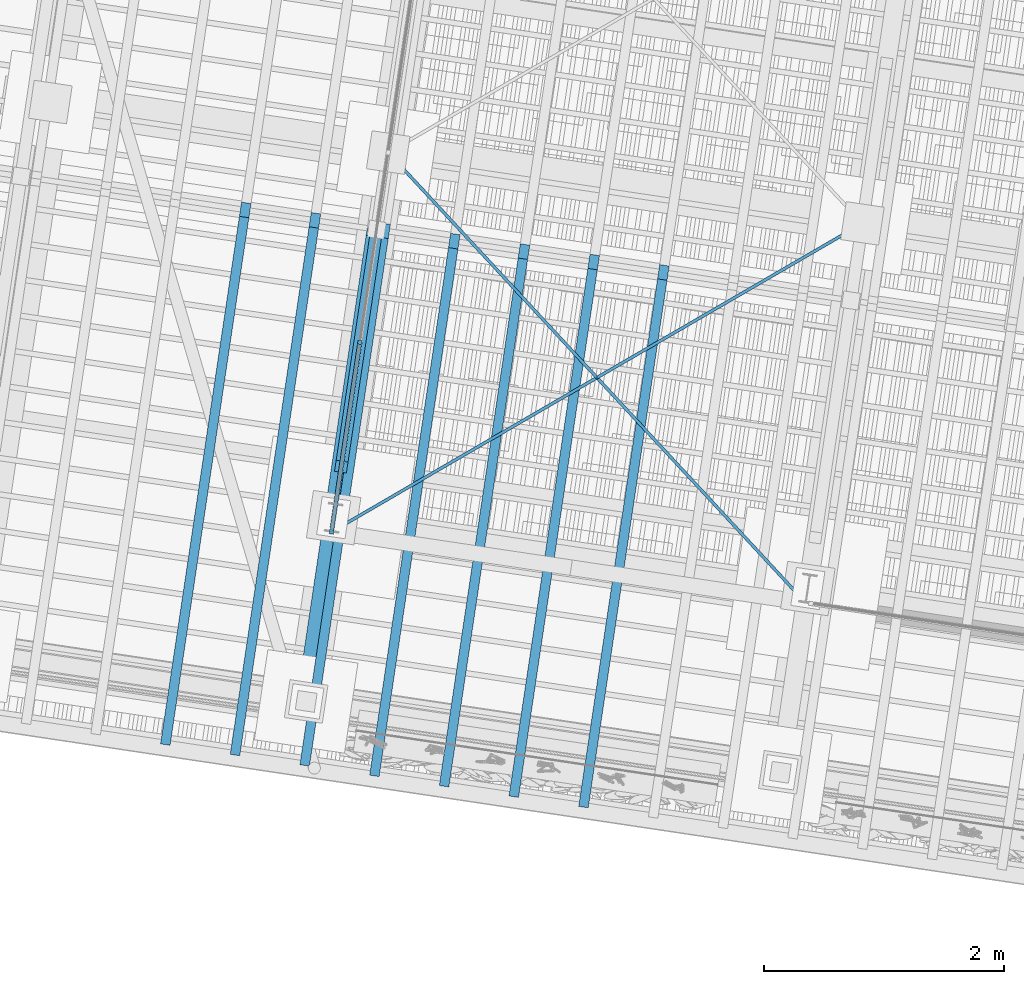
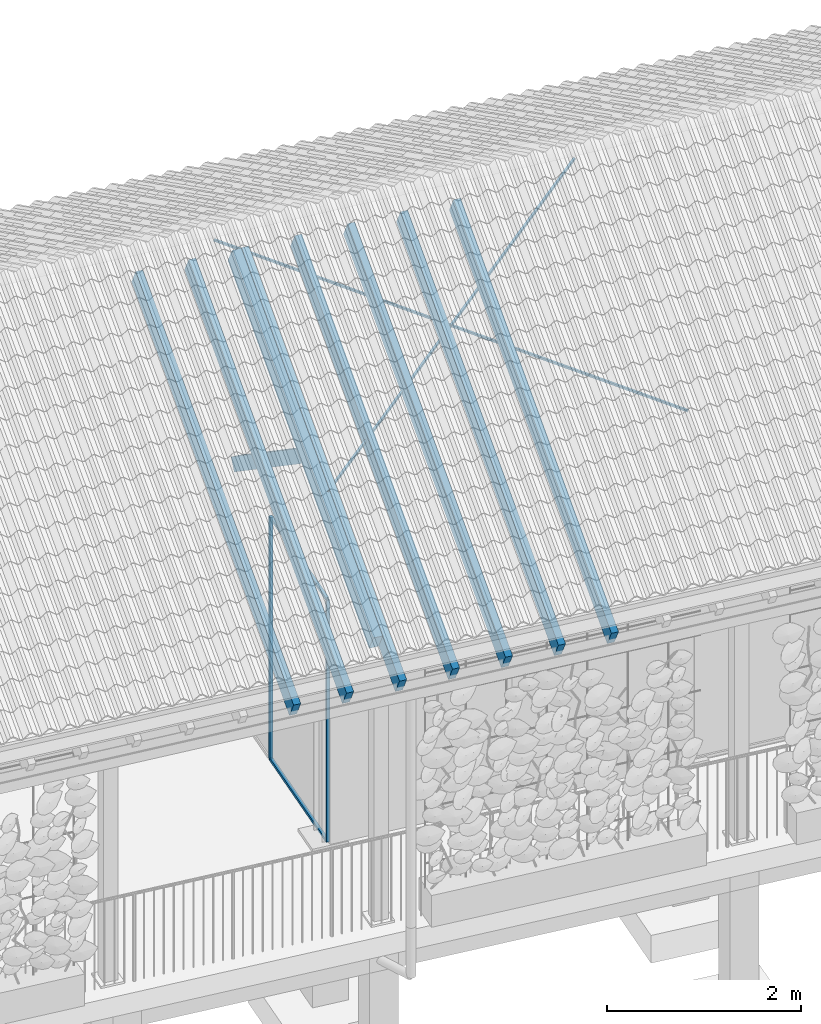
# One storey, part 22 of 131: 16 members, 1 element without a shape of its own.
"""IFC4 building model written with IfcOpenShell, lengths in metres."""

import ifcopenshell
import ifcopenshell.guid

model = None  # the IFC model being written
_history = None  # IfcOwnerHistory: only IFC2X3 demands one
_inside = {}  # id of a spatial element -> (the spatial element, [elements in it])
_under = {}  # id of a project, library or spatial element -> (it, [spatial elements below it])
_declared = {}  # id of a project -> (the project, [libraries it declares])
_typed = {}  # id of a type object -> (the type object, [elements of that type])
_made_of = {}  # id of a material, layer set ... -> (it, [elements and type objects made of it])


def new_model(schema):
    """Start an empty IFC model of exactly this schema.

    Asked for "IFC4X3", IfcOpenShell would pick the latest addendum, in which some entities
    have other attributes; the version numbers below select the first issue.
    IFC2X3 requires an IfcOwnerHistory on every rooted entity: one is made here for all.
    """
    global model, _history
    if schema == "IFC4X3":
        model = ifcopenshell.file(schema_version=(4, 3, 0, 0))
    else:
        model = ifcopenshell.file(schema=schema)
    _inside.clear()
    _under.clear()
    _declared.clear()
    _typed.clear()
    _made_of.clear()
    _history = None
    if model.schema == "IFC2X3":
        org = make("IfcOrganization", Name="unknown")
        user = make(
            "IfcPersonAndOrganization",
            ThePerson=make("IfcPerson", FamilyName="unknown"),
            TheOrganization=org,
        )
        app = make(
            "IfcApplication",
            ApplicationDeveloper=org,
            Version="unknown",
            ApplicationFullName="unknown",
            ApplicationIdentifier="unknown",
        )
        _history = make(
            "IfcOwnerHistory",
            OwningUser=user,
            OwningApplication=app,
            ChangeAction="ADDED",
            CreationDate=0,
        )
    return model


def make(cls, **values):
    """One entity of the class cls with the attributes given. An attribute that is None is left unset."""
    return model.create_entity(
        cls, **{name: value for name, value in values.items() if value is not None}
    )


def rooted(cls, **values):
    """An entity with a GlobalId (a new one), such as an element, a storey or a relation."""
    return make(cls, GlobalId=ifcopenshell.guid.new(), OwnerHistory=_history, **values)


def si_unit(unit_type, name, prefix=None):
    """IfcSIUnit, for example si_unit("LENGTHUNIT", "METRE", prefix="MILLI")."""
    return make("IfcSIUnit", UnitType=unit_type, Prefix=prefix, Name=name)


def assignment(units):
    """IfcUnitAssignment: the units of a project."""
    return None if units is None else make("IfcUnitAssignment", Units=units)


def point(xyz):
    """IfcCartesianPoint."""
    return None if xyz is None else make("IfcCartesianPoint", Coordinates=xyz)


def direction(xyz):
    """IfcDirection."""
    return None if xyz is None else make("IfcDirection", DirectionRatios=xyz)


def frame(location, z_axis=None, x_axis=None):
    """IfcAxis2Placement3D, a coordinate frame: its origin and axes. An axis left out is left unset."""
    return make(
        "IfcAxis2Placement3D",
        Location=point(location),
        Axis=direction(z_axis),
        RefDirection=direction(x_axis),
    )


def origin_with_axes():
    """The frame at (0, 0, 0) with the z axis (0, 0, 1) and the x axis (1, 0, 0) written out."""
    return frame((0.0, 0.0, 0.0), z_axis=(0.0, 0.0, 1.0), x_axis=(1.0, 0.0, 0.0))


def place(relative_to, where):
    """IfcLocalPlacement: puts the frame where relative to a parent placement (None: the world)."""
    return make(
        "IfcLocalPlacement", PlacementRelTo=relative_to, RelativePlacement=where
    )


def context(
    kind, dimensions, precision=None, world=None, true_north=None, identifier=None
):
    """IfcGeometricRepresentationContext, for example the 3D "Model" context."""
    return make(
        "IfcGeometricRepresentationContext",
        ContextIdentifier=identifier,
        ContextType=kind,
        CoordinateSpaceDimension=dimensions,
        Precision=precision,
        WorldCoordinateSystem=world,
        TrueNorth=true_north,
    )


def subcontext(parent, identifier, kind, view, scale=None):
    """IfcGeometricRepresentationSubContext, for example "Body" below "Model"."""
    return make(
        "IfcGeometricRepresentationSubContext",
        ContextIdentifier=identifier,
        ContextType=kind,
        ParentContext=parent,
        TargetScale=scale,
        TargetView=view,
    )


def project(units=None, contexts=None):
    """IfcProject with its units and contexts."""
    return rooted(
        "IfcProject",
        Name="project",
        RepresentationContexts=contexts,
        UnitsInContext=assignment(units),
    )


def spatial(cls, under=None, at=None, **own):
    """A site, building, storey or space (cls), placed at a placement, below another one or the project."""
    s = rooted(cls, ObjectPlacement=at, **own)
    if under is not None:
        _under.setdefault(under.id(), (under, []))[1].append(s)
    return s


def profile(cls, at=None, kind="AREA", **sizes):
    """A parametric profile (cls). Its sizes go by their IFC names, for example OverallWidth=200.0."""
    return make(cls, ProfileType=kind, Position=at, **sizes)


def rectangle(**sizes):
    """IfcRectangleProfileDef."""
    return profile("IfcRectangleProfileDef", **sizes)


def extrude(swept, where, along, depth):
    """IfcExtrudedAreaSolid: the profile swept, set in the frame where, extruded along a direction by depth."""
    return make(
        "IfcExtrudedAreaSolid",
        SweptArea=swept,
        Position=where,
        ExtrudedDirection=direction(along),
        Depth=depth,
    )


def shape(context_of_items, identifier, shape_type, items):
    """IfcShapeRepresentation: the items that make up one representation, for example the "Body"."""
    return make(
        "IfcShapeRepresentation",
        ContextOfItems=context_of_items,
        RepresentationIdentifier=identifier,
        RepresentationType=shape_type,
        Items=items,
    )


def material(Name=None, Category=None):
    """IfcMaterial."""
    return make("IfcMaterial", Name=Name, Category=Category)


def material_profile(
    of_material, cross_section, Name=None, Category=None, Priority=None
):
    """IfcMaterialProfile: a cross section and its material."""
    return make(
        "IfcMaterialProfile",
        Name=Name,
        Material=of_material,
        Profile=cross_section,
        Priority=Priority,
        Category=Category,
    )


def profile_set(profiles, Name=None, composite=None):
    """IfcMaterialProfileSet."""
    return make(
        "IfcMaterialProfileSet",
        Name=Name,
        MaterialProfiles=profiles,
        CompositeProfile=composite,
    )


def profile_usage(for_profile_set, cardinal=None, extent=None):
    """IfcMaterialProfileSetUsage: how a profile set lies along its element."""
    return make(
        "IfcMaterialProfileSetUsage",
        ForProfileSet=for_profile_set,
        CardinalPoint=cardinal,
        ReferenceExtent=extent,
    )


def made_of(thing, what):
    """Note that an element or type object is made of a material, layer set ...; save() writes the relation."""
    if what is not None:
        _made_of.setdefault(what.id(), (what, []))[1].append(thing)
    return thing


def type_object(cls, material=None, **own):
    """A type object (cls), such as IfcWallType, which elements share."""
    return made_of(rooted(cls, **own), material)


def element(
    cls,
    number,
    at=None,
    inside=None,
    cuts=None,
    type_object=None,
    material=None,
    context=None,
    identifier="Body",
    shape_type=None,
    held_by="IfcProductDefinitionShape",
    body=None,
    shapes=None,
    **own,
):
    """One element of the class cls, such as IfcWall. Its Tag is "e" and its number.

    at: its placement. inside: the storey or other place that contains it. cuts: it is an
    opening in that element (IfcRelVoidsElement). A single representation is given by context,
    identifier, shape_type and body (its items); several are given by shapes. held_by: the class
    of the entity that holds the representations. save() writes the other relations.
    """
    e = rooted(cls, Tag="e%d" % number, ObjectPlacement=at, **own)
    if body is not None:
        shapes = [shape(context, identifier, shape_type, body)]
    if shapes is not None:
        e.Representation = make(held_by, Representations=shapes)
    if inside is not None:
        _inside.setdefault(inside.id(), (inside, []))[1].append(e)
    if cuts is not None:
        rooted(
            "IfcRelVoidsElement", RelatingBuildingElement=cuts, RelatedOpeningElement=e
        )
    if type_object is not None:
        _typed.setdefault(type_object.id(), (type_object, []))[1].append(e)
    return made_of(e, material)


def aggregate(whole, parts):
    """IfcRelAggregates: a whole, such as a stair, and the parts it consists of."""
    return rooted("IfcRelAggregates", RelatingObject=whole, RelatedObjects=parts)


def save(model, path):
    """Write the relations noted so far, then the file.

    IfcRelAggregates (storeys below a building ...), IfcRelContainedInSpatialStructure (elements
    in a storey), IfcRelDefinesByType, IfcRelAssociatesMaterial and IfcRelDeclares: one each for
    every whole, place, type object, material and project.
    """
    for whole, parts in _under.values():
        aggregate(whole, parts)
    for where, things in _inside.values():
        rooted(
            "IfcRelContainedInSpatialStructure",
            RelatedElements=things,
            RelatingStructure=where,
        )
    for kind, things in _typed.values():
        rooted("IfcRelDefinesByType", RelatedObjects=things, RelatingType=kind)
    for what, things in _made_of.values():
        rooted("IfcRelAssociatesMaterial", RelatedObjects=things, RelatingMaterial=what)
    for by, libraries in _declared.values():
        rooted("IfcRelDeclares", RelatingContext=by, RelatedDefinitions=libraries)
    model.write(path)


model = new_model("IFC4")

# Units and contexts
model_context = context("Model", 3, precision=1e-05, world=origin_with_axes(), true_north=direction((0.0, 1.0)))
body_context = subcontext(model_context, "Body", "Model", "MODEL_VIEW")
ifc_project = project(units=[si_unit("AREAUNIT", "SQUARE_METRE"), si_unit("VOLUMEUNIT", "CUBIC_METRE"), si_unit("LENGTHUNIT", "METRE")], contexts=[model_context])

# Site, building, storey
site_placement = place(None, origin_with_axes())
site = spatial("IfcSite", under=ifc_project, at=site_placement, Name="Lares · Rua das Mercês · artigo 4771")
building_placement = place(site_placement, frame((15.0, 9.7, 14.65), z_axis=(0.0, 0.0, 1.0), x_axis=(0.989015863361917, -0.147809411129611, 0.0)))
building = spatial("IfcBuilding", under=site, at=building_placement, Name="Casa Sobreposta")
storey_placement = place(building_placement, origin_with_axes())
storey = spatial("IfcBuildingStorey", under=building, at=storey_placement, Name="00 · Habitação e estacionamento", Elevation=14.65)

# Members
ifc_material_1 = material(Name="Aço pintado / Stahl lackiert", Category="steel")
ifc_material_profile_1 = material_profile(ifc_material_1, rectangle(XDim=0.035, YDim=0.035))
ifc_profile_set_1 = profile_set([ifc_material_profile_1], Name="R0.035")
ifc_profile_usage_1 = profile_usage(ifc_profile_set_1)
member_type_1 = type_object("IfcMemberType", Name="R0.035 / steel", PredefinedType="NOTDEFINED", material=ifc_profile_set_1)
member_1_placement = place(storey_placement, origin_with_axes())
element("IfcMember", 1, at=member_1_placement, inside=storey, type_object=member_type_1, material=ifc_profile_usage_1, Name="Fachada poente integralmente envidraçada · módulo 1 · montante", context=body_context, shape_type="SweptSolid", body=[
    extrude(rectangle(XDim=0.035, YDim=0.035), origin_with_axes(), (0.0, 0.0, 1.0), 3.05),
])
ifc_profile_usage_2 = profile_usage(ifc_profile_set_1)
member_2_placement = place(storey_placement, frame((0.0, 1.6, 0.0), z_axis=(0.0, 0.0, 1.0), x_axis=(1.0, 0.0, 0.0)))
element("IfcMember", 2, at=member_2_placement, inside=storey, type_object=member_type_1, material=ifc_profile_usage_2, context=body_context, shape_type="SweptSolid", body=[
    extrude(rectangle(XDim=0.035, YDim=0.035), origin_with_axes(), (0.0, 0.0, 1.0), 3.05),
])
ifc_profile_usage_3 = profile_usage(ifc_profile_set_1)
member_3_placement = place(storey_placement, frame((0.0, 0.0, 0.0), z_axis=(0.0, 1.0, 0.0), x_axis=(1.0, 0.0, 0.0)))
element("IfcMember", 3, at=member_3_placement, inside=storey, type_object=member_type_1, material=ifc_profile_usage_3, Name="Fachada poente integralmente envidraçada · módulo 1 · travessa", context=body_context, shape_type="SweptSolid", body=[
    extrude(rectangle(XDim=0.035, YDim=0.035), origin_with_axes(), (0.0, 0.0, 1.0), 1.6),
])
ifc_profile_usage_4 = profile_usage(ifc_profile_set_1)
member_4_placement = place(storey_placement, frame((0.0, 0.0, 3.05), z_axis=(0.0, 1.0, 0.0), x_axis=(1.0, 0.0, 0.0)))
element("IfcMember", 4, at=member_4_placement, inside=storey, type_object=member_type_1, material=ifc_profile_usage_4, Name="Fachada poente integralmente envidraçada · módulo 1 · travessa", context=body_context, shape_type="SweptSolid", body=[
    extrude(rectangle(XDim=0.035, YDim=0.035), origin_with_axes(), (0.0, 0.0, 1.0), 1.6),
])
ifc_profile_usage_5 = profile_usage(ifc_profile_set_1)
member_5_placement = place(storey_placement, frame((0.0, 1.6, 0.0), z_axis=(0.0, 0.0, 1.0), x_axis=(1.0, 0.0, 0.0)))
element("IfcMember", 5, at=member_5_placement, inside=storey, type_object=member_type_1, material=ifc_profile_usage_5, context=body_context, shape_type="SweptSolid", body=[
    extrude(rectangle(XDim=0.035, YDim=0.035), origin_with_axes(), (0.0, 0.0, 1.0), 3.05),
])

# Roof, members
ifc_material_2 = material(Name="Madeira / Bauholz", Category="wood")
roof_placement = place(storey_placement, origin_with_axes())
roof = element("IfcRoof", 6, at=roof_placement, inside=storey, material=ifc_material_2, Name="Cobertura de telha · duas águas 30 graus", PredefinedType="GABLE_ROOF")
ifc_material_profile_2 = material_profile(ifc_material_2, rectangle(XDim=0.16, YDim=0.24))
ifc_profile_set_2 = profile_set([ifc_material_profile_2], Name="TIMBER0.160x0.240")
ifc_profile_usage_6 = profile_usage(ifc_profile_set_2)
member_type_2 = type_object("IfcMemberType", Name="TIMBER0.160x0.240 / timber", PredefinedType="NOTDEFINED", material=ifc_profile_set_2)
member_6_placement = place(roof_placement, frame((0.0, -1.43, 3.44635462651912), z_axis=(0.0, 0.866025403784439, 0.5), x_axis=(1.0, 0.0, 0.0)))
member_6 = element("IfcMember", 7, at=member_6_placement, type_object=member_type_2, material=ifc_profile_usage_6, Name="Tesoura · perna", context=body_context, shape_type="SweptSolid", body=[
    extrude(rectangle(XDim=0.16, YDim=0.24), origin_with_axes(), (0.0, 0.0, 1.0), 4.59570814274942),
])
ifc_material_profile_3 = material_profile(ifc_material_2, rectangle(XDim=0.1, YDim=0.16))
ifc_profile_set_3 = profile_set([ifc_material_profile_3], Name="TIMBER0.100x0.160")
ifc_profile_usage_7 = profile_usage(ifc_profile_set_3)
member_type_3 = type_object("IfcMemberType", Name="TIMBER0.100x0.160 / timber", PredefinedType="NOTDEFINED", material=ifc_profile_set_3)
member_7_placement = place(roof_placement, frame((0.0, 2.55, 3.1), z_axis=(0.0, -0.816439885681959, 0.577430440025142), x_axis=(-1.0, 0.0, 0.0)))
member_7 = element("IfcMember", 8, at=member_7_placement, type_object=member_type_3, material=ifc_profile_usage_7, Name="Tesoura · escora", context=body_context, shape_type="SweptSolid", body=[
    extrude(rectangle(XDim=0.1, YDim=0.16), origin_with_axes(), (0.0, 0.0, 1.0), 2.44965984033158),
])
ifc_material_profile_4 = material_profile(ifc_material_2, rectangle(XDim=0.08, YDim=0.24))
ifc_profile_set_4 = profile_set([ifc_material_profile_4], Name="TIMBER0.080x0.240")
ifc_profile_usage_8 = profile_usage(ifc_profile_set_4)
member_type_4 = type_object("IfcMemberType", Name="TIMBER0.080x0.240 / timber", PredefinedType="NOTDEFINED", material=ifc_profile_set_4)
member_8_placement = place(roof_placement, frame((-1.10909090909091, -1.9, 3.181), z_axis=(0.0, 0.866025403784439, 0.5), x_axis=(1.0, 0.0, 0.0)))
member_8 = element("IfcMember", 9, at=member_8_placement, type_object=member_type_4, material=ifc_profile_usage_8, Name="Cobertura · caibro", context=body_context, shape_type="SweptSolid", body=[
    extrude(rectangle(XDim=0.08, YDim=0.24), origin_with_axes(), (0.0, 0.0, 1.0), 5.13841739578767),
])
ifc_profile_usage_9 = profile_usage(ifc_profile_set_4)
member_9_placement = place(roof_placement, frame((-0.521212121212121, -1.9, 3.181), z_axis=(0.0, 0.866025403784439, 0.5), x_axis=(1.0, 0.0, 0.0)))
member_9 = element("IfcMember", 10, at=member_9_placement, type_object=member_type_4, material=ifc_profile_usage_9, Name="Cobertura · caibro", context=body_context, shape_type="SweptSolid", body=[
    extrude(rectangle(XDim=0.08, YDim=0.24), origin_with_axes(), (0.0, 0.0, 1.0), 5.13841739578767),
])
ifc_profile_usage_10 = profile_usage(ifc_profile_set_4)
member_10_placement = place(roof_placement, frame((0.0666666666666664, -1.9, 3.181), z_axis=(0.0, 0.866025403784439, 0.5), x_axis=(1.0, 0.0, 0.0)))
member_10 = element("IfcMember", 11, at=member_10_placement, type_object=member_type_4, material=ifc_profile_usage_10, Name="Cobertura · caibro", context=body_context, shape_type="SweptSolid", body=[
    extrude(rectangle(XDim=0.08, YDim=0.24), origin_with_axes(), (0.0, 0.0, 1.0), 5.13841739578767),
])
ifc_profile_usage_11 = profile_usage(ifc_profile_set_4)
member_11_placement = place(roof_placement, frame((0.654545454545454, -1.9, 3.181), z_axis=(0.0, 0.866025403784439, 0.5), x_axis=(1.0, 0.0, 0.0)))
member_11 = element("IfcMember", 12, at=member_11_placement, type_object=member_type_4, material=ifc_profile_usage_11, Name="Cobertura · caibro", context=body_context, shape_type="SweptSolid", body=[
    extrude(rectangle(XDim=0.08, YDim=0.24), origin_with_axes(), (0.0, 0.0, 1.0), 5.13841739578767),
])
ifc_profile_usage_12 = profile_usage(ifc_profile_set_4)
member_12_placement = place(roof_placement, frame((1.24242424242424, -1.9, 3.181), z_axis=(0.0, 0.866025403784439, 0.5), x_axis=(1.0, 0.0, 0.0)))
member_12 = element("IfcMember", 13, at=member_12_placement, type_object=member_type_4, material=ifc_profile_usage_12, Name="Cobertura · caibro", context=body_context, shape_type="SweptSolid", body=[
    extrude(rectangle(XDim=0.08, YDim=0.24), origin_with_axes(), (0.0, 0.0, 1.0), 5.13841739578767),
])
ifc_profile_usage_13 = profile_usage(ifc_profile_set_4)
member_13_placement = place(roof_placement, frame((1.83030303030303, -1.9, 3.181), z_axis=(0.0, 0.866025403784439, 0.5), x_axis=(1.0, 0.0, 0.0)))
member_13 = element("IfcMember", 14, at=member_13_placement, type_object=member_type_4, material=ifc_profile_usage_13, Name="Cobertura · caibro", context=body_context, shape_type="SweptSolid", body=[
    extrude(rectangle(XDim=0.08, YDim=0.24), origin_with_axes(), (0.0, 0.0, 1.0), 5.13841739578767),
])
ifc_profile_usage_14 = profile_usage(ifc_profile_set_4)
member_14_placement = place(roof_placement, frame((2.41818181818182, -1.9, 3.181), z_axis=(0.0, 0.866025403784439, 0.5), x_axis=(1.0, 0.0, 0.0)))
member_14 = element("IfcMember", 15, at=member_14_placement, type_object=member_type_4, material=ifc_profile_usage_14, Name="Cobertura · caibro", context=body_context, shape_type="SweptSolid", body=[
    extrude(rectangle(XDim=0.08, YDim=0.24), origin_with_axes(), (0.0, 0.0, 1.0), 5.13841739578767),
])
ifc_material_3 = material(Name="Aço galvanizado / Stahl verzinkt", Category="steel")
ifc_material_profile_5 = material_profile(ifc_material_3, rectangle(XDim=0.025, YDim=0.025))
ifc_profile_set_5 = profile_set([ifc_material_profile_5], Name="R0.025")
ifc_profile_usage_15 = profile_usage(ifc_profile_set_5)
member_type_5 = type_object("IfcMemberType", Name="R0.025 / galvanized", PredefinedType="NOTDEFINED", material=ifc_profile_set_5)
member_15_placement = place(roof_placement, frame((0.0, 0.0, 4.39896551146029), z_axis=(0.763557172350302, 0.610845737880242, 0.209398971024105), x_axis=(0.624695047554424, -0.78086880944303, 0.0)))
member_15 = element("IfcMember", 16, at=member_15_placement, type_object=member_type_5, material=ifc_profile_usage_15, Name="Cobertura · fita de contraventamento", context=body_context, shape_type="SweptSolid", body=[
    extrude(rectangle(XDim=0.025, YDim=0.025), origin_with_axes(), (0.0, 0.0, 1.0), 5.2386384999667),
])
ifc_profile_usage_16 = profile_usage(ifc_profile_set_5)
member_16_placement = place(roof_placement, frame((0.0, 3.2, 5.49593102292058), z_axis=(0.763557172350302, -0.610845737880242, -0.209398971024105), x_axis=(-0.624695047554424, -0.78086880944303, 0.0)))
member_16 = element("IfcMember", 17, at=member_16_placement, type_object=member_type_5, material=ifc_profile_usage_16, Name="Cobertura · fita de contraventamento", context=body_context, shape_type="SweptSolid", body=[
    extrude(rectangle(XDim=0.025, YDim=0.025), origin_with_axes(), (0.0, 0.0, 1.0), 5.2386384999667),
])
aggregate(roof, [member_6, member_7, member_8, member_9, member_10, member_11, member_12, member_13, member_14, member_15, member_16])

save(model, "model.ifc")
